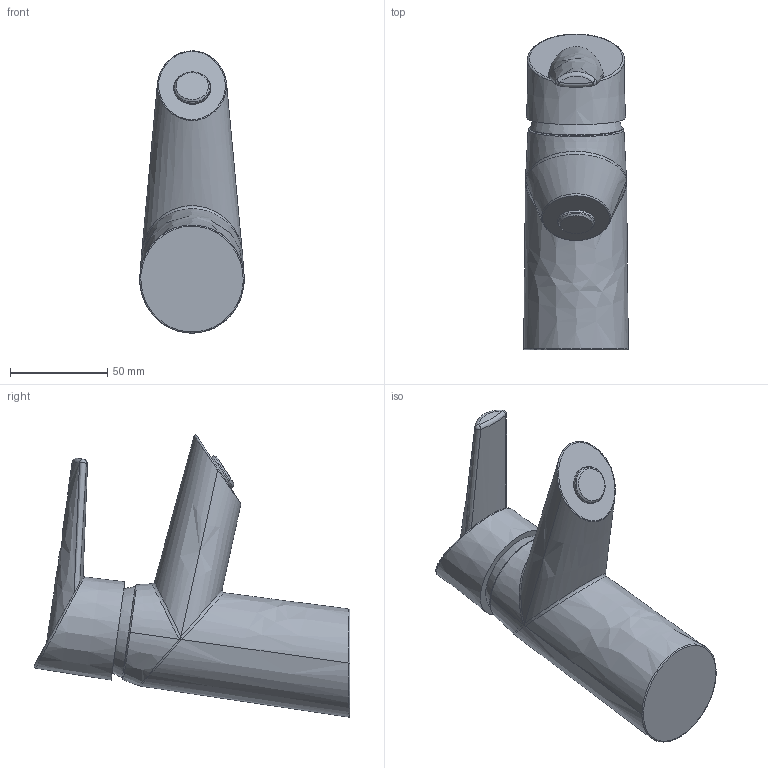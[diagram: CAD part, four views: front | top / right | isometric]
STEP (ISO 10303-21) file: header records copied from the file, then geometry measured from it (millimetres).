
FILE_DESCRIPTION (( 'STEP AP203' ), '1' );
FILE_NAME ('2700F+2710F.STEP', '2017-03-09T05:47:30', ( '' ), ( '' ), 'SwSTEP 2.0', 'SolidWorks 2016', '' );
FILE_SCHEMA (( 'CONFIG_CONTROL_DESIGN' ));
Length unit declared in the file: millimetre
Products named in the file (1): 2700F+2710F
Bounding box: 53.82 x 162.41 x 145.15 mm (x, y, z)
Volume: 412894.5 mm3; surface area: 41633.5 mm2
Topology: 1 solids, 1 shells, 39 faces, 86 edges, 52 vertices
Faces by surface type: bspline 27, plane 7, cone 2, sphere 2, cylinder 1
Full cylindrical faces by diameter (mm): 19 x1
Entity records: 8468 total; most frequent: CARTESIAN_POINT 7801, ORIENTED_EDGE 150, EDGE_CURVE 75, B_SPLINE_CURVE_WITH_KNOTS 60, DIRECTION 52, EDGE_LOOP 49, VERTEX_POINT 48, FACE_OUTER_BOUND 44
